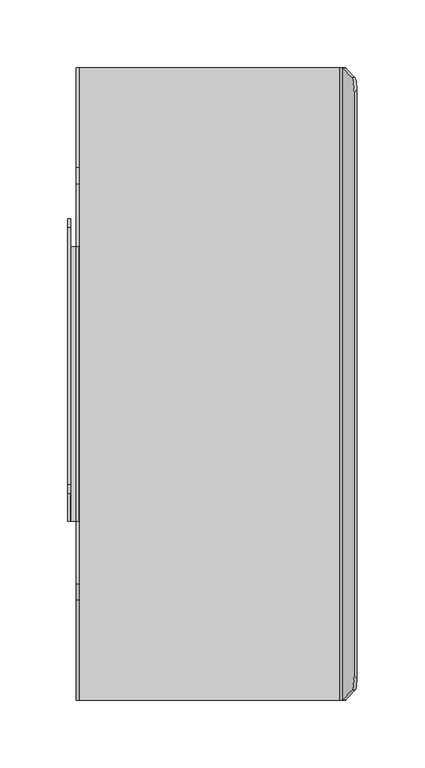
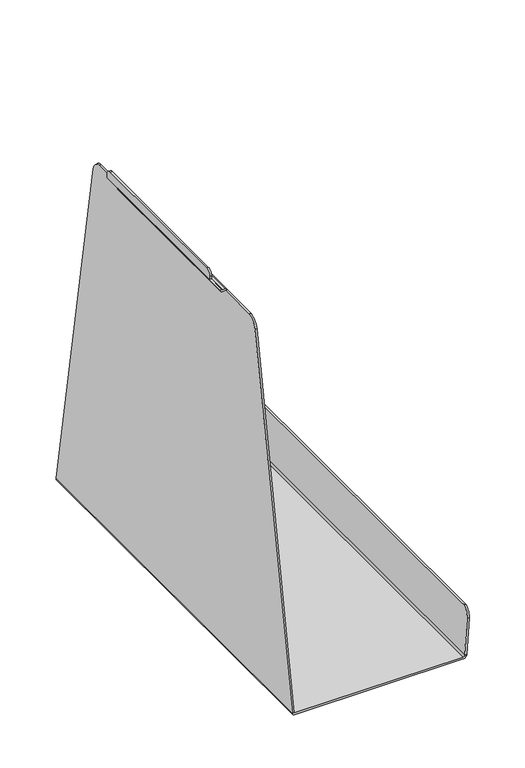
"""IFC4 building model written with IfcOpenShell, lengths in millimetres: furniture geometry, Steelcase Turnstone - Bivi - Accessories - Bottom Shelf : 8 1/2D x 18 1/2W x 17H."""

from ifc_helpers import new_model, si_unit, point, frame, frame_2d, origin, place, context, project, spatial, polyline, circle_curve, ellipse_curve, trimmed, segment, composite_curve, outline, extrude, source, transform, mapped, element, save
from ifc_brep_helpers import plane_surface, cylinder_surface, revolved_surface, advanced_brep


def furniture_51eb2225(model_context):
    return source(origin(), model_context, "Body", "SolidModel", [
        advanced_brep(
        [(-2.159, 0.0, 100.1982712), (0.3762735, 0.0, 97.6629977), (192.710562, 0.0, 97.6629977), (197.0196907, 0.0, 101.2787861), (194.7755392, 0.0, 101.2124745), (192.7536355, 0.0, 99.8219956), (0.5081159, 0.0, 99.8219956), (0.0, 0.0, 100.3301115), (0.0, 466.5980092, 100.3301115), (0.5081159, 466.5980092, 99.8219956), (192.7536355, 466.5980092, 99.8219956), (194.7755392, 466.5980092, 101.2124745), (197.0196907, 466.5980092, 101.2124745), (192.710562, 466.5980092, 97.6629977), (0.3762735, 466.5980092, 97.6629977), (-2.159, 466.5980092, 100.1982712), (0.0, 392.9265174, 518.0772323), (0.0, 380.8072862, 529.4629947), (0.0, 85.7907231, 529.4629947), (0.0, 73.6714918, 518.0772323), (-2.159, 380.8072862, 529.4629947), (-2.159, 85.7907231, 529.4629947), (-2.159, 73.6714918, 518.0772323), (-2.159, 392.9265174, 518.0772323), (197.0074707, 466.4185827, 101.2124745), (197.0196907, 0.1794265, 101.2787861), (203.6299637, 459.3864386, 138.7675067), (205.3840255, 450.2633829, 148.7152855), (205.3840255, 16.3346263, 148.7152855), (203.6299637, 7.2115706, 138.7675067), (203.2578253, 448.3638434, 149.0901906), (203.2578253, 446.8394014, 149.0901906), (203.2578253, 19.7586078, 149.0901906), (203.2578253, 18.2341658, 149.0901906), (194.8860107, 466.3562151, 101.6112709), (194.8860107, 0.2417941, 101.6112709), (201.4376576, 7.2115706, 138.7675067), (201.4376576, 459.3864386, 138.7675067), (194.7755392, 0.1669877, 101.2124745), (194.7755392, 466.4310215, 101.2124745)],
        [
            (0, 1, circle_curve(frame((0.3762735, 0.0, 100.1982712), z_axis=(0.0, -1.0, 0.0), x_axis=(1.0, 0.0, 0.0)), 2.5352735)),
            (1, 2),
            (2, 3, circle_curve(frame((192.710562, 0.0, 102.0386017), z_axis=(0.0, -1.0, 0.0), x_axis=(1.0, 0.0, 0.0)), 4.375604)),
            (3, 4),
            (4, 5, circle_curve(frame((192.7536355, 0.0, 101.9872662), z_axis=(0.0, 1.0, 0.0), x_axis=(1.0, 0.0, 0.0)), 2.1652706)),
            (5, 6),
            (6, 7, circle_curve(frame((0.5081159, 0.0, 100.3301115), z_axis=(0.0, 1.0, 0.0), x_axis=(1.0, 0.0, 0.0)), 0.5081159)),
            (7, 0),
            (8, 9, circle_curve(frame((0.5081159, 466.5980092, 100.3301115), z_axis=(0.0, -1.0, 0.0), x_axis=(1.0, 0.0, 0.0)), 0.5081159)),
            (9, 10),
            (10, 11, circle_curve(frame((192.7536355, 466.5980092, 101.9872662), z_axis=(0.0, -1.0, 0.0), x_axis=(1.0, 0.0, 0.0)), 2.1652706)),
            (11, 12),
            (12, 13, circle_curve(frame((192.710562, 466.5980092, 102.0386017), z_axis=(0.0, 1.0, 0.0), x_axis=(1.0, 0.0, 0.0)), 4.375604)),
            (13, 14),
            (14, 15, circle_curve(frame((0.3762735, 466.5980092, 100.1982712), z_axis=(0.0, 1.0, 0.0), x_axis=(1.0, 0.0, 0.0)), 2.5352735)),
            (15, 8),
            (7, 8),
            (8, 16),
            (16, 17, circle_curve(frame((0.0, 379.2535594, 515.6663209), z_axis=(1.0, 0.0, 0.0), x_axis=(0.0, -1.0, 0.0)), 13.8838854)),
            (17, 18),
            (18, 19, circle_curve(frame((0.0, 87.3444498, 515.6663209), z_axis=(1.0, 0.0, 0.0), x_axis=(0.0, -1.0, 0.0)), 13.8838854)),
            (19, 7),
            (17, 20),
            (20, 21),
            (21, 18),
            (15, 0),
            (0, 22),
            (22, 21, circle_curve(frame((-2.159, 87.3444498, 515.6663209), z_axis=(-1.0, 0.0, 0.0), x_axis=(0.0, -1.0, 0.0)), 13.8838854)),
            (20, 23, circle_curve(frame((-2.159, 379.2535594, 515.6663209), z_axis=(-1.0, 0.0, 0.0), x_axis=(0.0, -1.0, 0.0)), 13.8838854)),
            (23, 15),
            (14, 1),
            (13, 2),
            (12, 24),
            (24, 25),
            (25, 3),
            (24, 26),
            (26, 27, ellipse_curve(frame((203.2176697, 446.8517712, 136.4292717), z_axis=(0.9848077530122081, 0.0, -0.17364817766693), x_axis=(-0.17364817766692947, 0.0, -0.9848077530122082)), 12.9475945, 12.7508914)),
            (27, 28),
            (28, 29, ellipse_curve(frame((203.2176697, 19.746238, 136.4292717), z_axis=(0.9848077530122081, 0.0, -0.17364817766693), x_axis=(-0.17364817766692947, 0.0, -0.9848077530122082)), 12.9475945, 12.7508914)),
            (29, 25),
            (27, 30, ellipse_curve(frame((275.0617277, 446.8517712, 136.4292717), z_axis=(0.1736475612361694, 0.0, 0.984807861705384), x_axis=(-0.984807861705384, 0.0, 0.1736475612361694)), 73.4297177, 12.7508914)),
            (30, 31),
            (31, 32),
            (32, 33),
            (33, 28, ellipse_curve(frame((275.0617277, 19.746238, 136.4292717), z_axis=(0.1736475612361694, 0.0, 0.984807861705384), x_axis=(-0.984807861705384, 0.0, 0.1736475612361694)), 73.4297177, 12.7508914)),
            (34, 35),
            (35, 36),
            (36, 33, ellipse_curve(frame((201.0253637, 19.746238, 136.4292717), z_axis=(-0.984807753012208, 0.0, 0.17364817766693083), x_axis=(-0.17364817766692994, 0.0, -0.9848077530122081)), 12.9475945, 12.7508914)),
            (30, 37, ellipse_curve(frame((201.0253637, 446.8517712, 136.4292717), z_axis=(-0.984807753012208, 0.0, 0.17364817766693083), x_axis=(-0.17364817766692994, 0.0, -0.9848077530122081)), 12.9475945, 12.7508914)),
            (37, 34),
            (10, 5),
            (4, 38),
            (38, 35, ellipse_curve(frame((192.7536355, 0.3123234, 101.9872662), z_axis=(0.0, -0.982857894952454, 0.184364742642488), x_axis=(0.0, 0.18436474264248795, 0.9828578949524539)), 2.2030353, 2.1652706)),
            (34, 39, ellipse_curve(frame((192.7536355, 466.2856858, 101.9872662), z_axis=(0.0, 0.9828578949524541, 0.18436474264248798), x_axis=(0.0, 0.18436474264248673, -0.9828578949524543)), 2.2030353, 2.1652706)),
            (39, 11),
            (9, 6),
            (19, 22),
            (16, 23),
            (26, 37),
            (24, 39),
            (25, 38),
            (29, 36),
        ],
        [
            plane_surface(frame((0.0, 0.0, 529.0812117), z_axis=(0.0, -1.0, 0.0), x_axis=(0.0, 0.0, 1.0))),
            plane_surface(frame((0.0, 466.5980092, 529.0812117), z_axis=(0.0, 1.0, 0.0), x_axis=(0.0, 0.0, -1.0))),
            plane_surface(frame((0.0, 0.0, 100.3301115), z_axis=(1.0, 0.0, 0.0), x_axis=(0.0, 1.0, 0.0))),
            plane_surface(frame((0.0, 0.0, 529.4629947), z_axis=(0.0, 0.0, 1.0), x_axis=(0.0, 1.0, 0.0))),
            plane_surface(frame((-2.159, 0.0, 529.4629947), z_axis=(-1.0, 0.0, 0.0), x_axis=(0.0, 1.0, 0.0))),
            cylinder_surface(frame((0.3762735, 466.5980092, 100.1982712), z_axis=(0.0, -1.0, 0.0), x_axis=(1.0, 0.0, 0.0)), 2.5352735),
            plane_surface(frame((0.3762735, 0.0, 97.6629977), z_axis=(0.0, 0.0, -1.0), x_axis=(0.0, 1.0, 0.0))),
            cylinder_surface(frame((192.710562, 466.5980092, 102.0386017), z_axis=(0.0, -1.0, 0.0), x_axis=(1.0, 0.0, 0.0)), 4.375604),
            plane_surface(frame((197.0196907, 0.0, 101.2787861), z_axis=(0.9848077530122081, 0.0, -0.17364817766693), x_axis=(0.0, 1.0, 0.0))),
            plane_surface(frame((205.3840255, 0.0, 148.7152855), z_axis=(0.1736475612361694, 0.0, 0.984807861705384), x_axis=(0.0, 1.0, 0.0))),
            plane_surface(frame((203.2578253, 0.0, 149.0901906), z_axis=(-0.984807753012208, 0.0, 0.17364817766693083), x_axis=(0.0, 1.0, 0.0))),
            revolved_surface(polyline([(194.91890610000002, 466.69184783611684, 101.9872662), (194.91890610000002, -0.09383863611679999, 101.9872662)]), (192.7536355, 466.5980092, 101.9872662), (0.0, 1.0, 0.0)),
            plane_surface(frame((192.7536355, 0.0, 99.8219956), z_axis=(0.0, 0.0, 1.0), x_axis=(0.0, 1.0, 0.0))),
            revolved_surface(polyline([(1.0162318, 466.5980092, 100.3301115), (1.0162318, 0.0, 100.3301115)]), (0.5081159, 466.5980092, 100.3301115), (0.0, 1.0, 0.0)),
            plane_surface(frame((0.0, -0.0119673, 100.1975699), z_axis=(0.0, -0.9848077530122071, 0.17364817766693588), x_axis=(-1.0, 0.0, 0.0))),
            cylinder_surface(frame((-2.159, 87.3444498, 515.6663209), z_axis=(-1.0, 0.0, 0.0), x_axis=(0.0, -1.0, 0.0)), 13.8838854),
            cylinder_surface(frame((0.0, 379.2535594, 515.6663209), z_axis=(-1.0, 0.0, 0.0), x_axis=(0.0, -1.0, 0.0)), 13.8838854),
            plane_surface(frame((0.0, 392.9265174, 518.0772323), z_axis=(0.0, 0.9848077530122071, 0.17364817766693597), x_axis=(-1.0, 0.0, 0.0))),
            cylinder_surface(frame((193.8134829, 446.8517712, 136.4292717), z_axis=(-1.0, 0.0, 0.0), x_axis=(0.0, 1.0, 0.0)), 12.7508914),
            plane_surface(frame((206.7040555, 459.3864386, 138.7675067), z_axis=(0.0, 0.9828578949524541, 0.18436474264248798), x_axis=(-1.0, 0.0, 0.0))),
            plane_surface(frame((206.7040555, 466.4310215, 101.2124745), z_axis=(0.0, 0.0, 1.0), x_axis=(-1.0, 0.0, 0.0))),
            plane_surface(frame((206.7040555, -0.8433594, 101.2124745), z_axis=(0.0, 0.0, 1.0), x_axis=(-1.0, 0.0, 0.0))),
            plane_surface(frame((206.7040555, 0.1669877, 101.2124745), z_axis=(0.0, -0.982857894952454, 0.184364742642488), x_axis=(-1.0, 0.0, 0.0))),
            cylinder_surface(frame((0.0, 19.746238, 136.4292717), z_axis=(-1.0, 0.0, 0.0), x_axis=(0.0, 1.0, 0.0)), 12.7508914),
        ],
        [
            (0, [[1, 2, 3, 4, 5, 6, 7, 8]]),
            (1, [[9, 10, 11, 12, 13, 14, 15, 16]]),
            (2, [[17, 18, 19, 20, 21, 22]]),
            (3, [[-20, 23, 24, 25]]),
            (4, [[26, 27, 28, -24, 29, 30]]),
            (5, [[-1, -26, -15, 31]]),
            (6, [[-2, -31, -14, 32]]),
            (7, [[-3, -32, -13, 33, 34, 35]]),
            (8, [[-34, 36, 37, 38, 39, 40]]),
            (9, [[-38, 41, 42, 43, 44, 45]]),
            (10, [[46, 47, 48, -44, -43, -42, 49, 50]]),
            (11, [[51, -5, 52, 53, -46, 54, 55, -11]]),
            (12, [[-6, -51, -10, 56]]),
            (13, [[-7, -56, -9, -17]]),
            (14, [[57, -27, -8, -22]]),
            (15, [[-57, -21, -25, -28]]),
            (16, [[58, -29, -23, -19]]),
            (17, [[-58, -18, -16, -30]]),
            (18, [[59, -49, -41, -37]]),
            (19, [[-59, -36, 60, -54, -50]]),
            (20, [[-60, -33, -12, -55]]),
            (21, [[61, -52, -4, -35]]),
            (22, [[-61, -40, 62, -47, -53]]),
            (23, [[-62, -39, -45, -48]]),
        ],
    ),
        extrude(outline(composite_curve([segment(polyline([(531.6219835, -2.5399992), (531.6219835, -5.6404629)]), True, "CONTINUOUS"), segment(trimmed(circle_curve(frame_2d((532.1791206, -5.6404629)), 0.5571371), [point((531.6219835, -5.6404629))], [point((532.1791206, -6.1976))], True, "CARTESIAN"), True, "CONTINUOUS"), segment(polyline([(532.1791206, -6.1976), (532.1791206, -8.3566)]), True, "CONTINUOUS"), segment(trimmed(circle_curve(frame_2d((531.9892542, -5.8374854)), 2.5262596), [point((532.1791206, -8.3566))], [point((529.4629947, -5.8374854))], False, "CARTESIAN"), True, "CONTINUOUS"), segment(polyline([(529.4629947, -5.8374854), (529.4629947, 0.0)]), True, "CONTINUOUS"), segment(trimmed(circle_curve(frame_2d((529.0483646, -2.5399992)), 2.5736189), [point((529.4629947, 0.0))], [point((531.6219835, -2.5399992))], False, "CARTESIAN"), True, "CONTINUOUS")], self_intersect=False)), frame((0.0, 132.0165029, 0.0), z_axis=(0.0, 1.0, 0.0), x_axis=(0.0, 0.0, 1.0)), (0.0, 0.0, 1.0), 202.565),
        advanced_brep(
        [(-6.1976, 159.067477, 542.7648717), (-6.1976, 152.7079595, 536.4053542), (-6.1976, 152.7079595, 532.1791206), (-6.1976, 334.5815029, 532.1791206), (-6.1976, 355.2824983, 532.1791206), (-6.1976, 355.2824983, 536.4053542), (-6.1976, 348.9229808, 542.7648717), (-8.3566, 159.067477, 542.7648717), (-8.3566, 348.9229808, 542.7648717), (-8.3566, 355.2824983, 536.4053542), (-8.3566, 355.2824983, 532.1791206), (-8.3566, 334.5815029, 532.1791206), (-8.3566, 152.7079595, 532.1791206), (-8.3566, 152.7079595, 536.4053542)],
        [
            (0, 1, circle_curve(frame((-6.1976, 159.067477, 536.4053542), z_axis=(1.0, 0.0, 0.0), x_axis=(0.0, 1.0, 0.0)), 6.3595175)),
            (1, 2),
            (2, 3),
            (3, 4),
            (4, 5),
            (5, 6, circle_curve(frame((-6.1976, 348.9229808, 536.4053542), z_axis=(1.0, 0.0, 0.0), x_axis=(0.0, 1.0, 0.0)), 6.3595175)),
            (6, 0),
            (7, 8),
            (8, 9, circle_curve(frame((-8.3566, 348.9229808, 536.4053542), z_axis=(-1.0, 0.0, 0.0), x_axis=(0.0, 1.0, 0.0)), 6.3595175)),
            (9, 10),
            (10, 11),
            (11, 12),
            (12, 13),
            (13, 7, circle_curve(frame((-8.3566, 159.067477, 536.4053542), z_axis=(-1.0, 0.0, 0.0), x_axis=(0.0, 1.0, 0.0)), 6.3595175)),
            (0, 7),
            (13, 1),
            (12, 2),
            (10, 4),
            (9, 5),
            (8, 6),
        ],
        [
            plane_surface(frame((-6.1976, 165.4269945, 536.4053542), z_axis=(1.0, 0.0, 0.0), x_axis=(0.0, 0.0, 1.0))),
            plane_surface(frame((-8.3566, 165.4269945, 536.4053542), z_axis=(-1.0, 0.0, 0.0), x_axis=(0.0, 0.0, -1.0))),
            cylinder_surface(frame((-8.3566, 159.067477, 536.4053542), z_axis=(1.0, 0.0, 0.0), x_axis=(0.0, 1.0, 0.0)), 6.3595175),
            plane_surface(frame((-6.1976, 152.7079595, 536.4053542), z_axis=(0.0, -1.0, 0.0), x_axis=(-1.0, 0.0, 0.0))),
            plane_surface(frame((-6.1976, 152.7079595, 532.1791206), z_axis=(0.0, 0.0, -1.0), x_axis=(-1.0, 0.0, 0.0))),
            plane_surface(frame((-6.1976, 355.2824983, 532.1791206), z_axis=(0.0, 1.0, 0.0), x_axis=(-1.0, 0.0, 0.0))),
            cylinder_surface(frame((-8.3566, 348.9229808, 536.4053542), z_axis=(1.0, 0.0, 0.0), x_axis=(0.0, 1.0, 0.0)), 6.3595175),
            plane_surface(frame((-6.1976, 348.9229808, 542.7648717), z_axis=(0.0, 0.0, 1.0), x_axis=(-1.0, 0.0, 0.0))),
        ],
        [
            (0, [[1, 2, 3, 4, 5, 6, 7]]),
            (1, [[8, 9, 10, 11, 12, 13, 14]]),
            (2, [[-1, 15, -14, 16]]),
            (3, [[-2, -16, -13, 17]]),
            (4, [[-4, -3, -17, -12, -11, 18]]),
            (5, [[-5, -18, -10, 19]]),
            (6, [[-6, -19, -9, 20]]),
            (7, [[-7, -20, -8, -15]]),
        ],
    ),
    ])


if __name__ == "__main__":
    model = new_model("IFC4")
    model_context = context("Model", 3, world=origin())
    ifc_project = project(units=[si_unit("LENGTHUNIT", "METRE", prefix="MILLI")], contexts=[model_context])
    site = spatial("IfcSite", under=ifc_project)
    building = spatial("IfcBuilding", under=site)
    placement = place(None, origin())
    furniture_shape = furniture_51eb2225(model_context)
    element("IfcFurniture", 1, ObjectType="Steelcase Turnstone - Bivi - Accessories - Bottom Shelf : 8 1/2D x 18 1/2W x 17H", at=placement, inside=building, context=model_context, shape_type="MappedRepresentation", body=[
        mapped(furniture_shape, transform((0.0, 0.0, 0.0), x_axis=(1.0, 0.0, 0.0), y_axis=(0.0, 1.0, 0.0), z_axis=(0.0, 0.0, 1.0))),
    ])
    save(model, "model.ifc")
